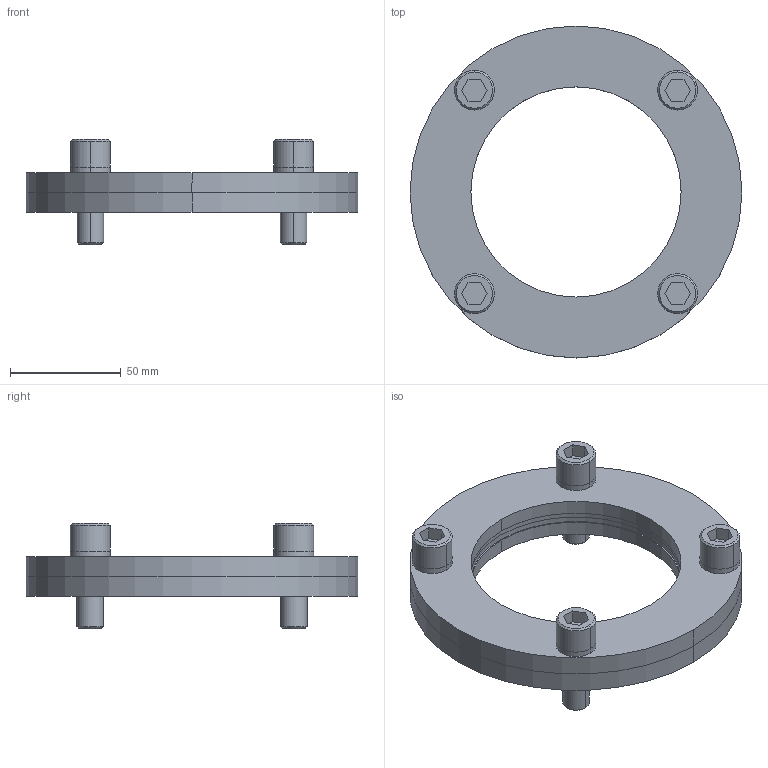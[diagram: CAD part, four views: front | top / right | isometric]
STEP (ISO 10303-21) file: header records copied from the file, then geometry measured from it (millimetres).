
FILE_DESCRIPTION(/* description */ (''),/* implementation_level */ '2;1');
FILE_NAME(/* name */ '3d_kf95_04237_r00.stp',/* time_stamp */ '2011-01-10T14:14:22+09:00',/* author */ ('MISUMI'),/* organization */ (''),/* preprocessor_version */ 'ST-DEVELOPER v11',/* originating_system */ 'UGS - NX 5.0',/* authorisation */ '');
FILE_SCHEMA (('CONFIG_CONTROL_DESIGN'));
Length unit declared in the file: millimetre
Products named in the file (1): 3d_kf95_04237_r00
Bounding box: 150 x 150 x 47.5 mm (x, y, z)
Volume: 206402.7 mm3; surface area: 69745.2 mm2
Topology: 10 solids, 10 shells, 130 faces, 284 edges, 184 vertices
Faces by surface type: cylinder 60, plane 54, cone 16
Entity records: 3720 total; most frequent: DIRECTION 682, CARTESIAN_POINT 599, ORIENTED_EDGE 568, EDGE_CURVE 284, AXIS2_PLACEMENT_3D 267, VERTEX_POINT 184, EDGE_LOOP 168, LINE 148
